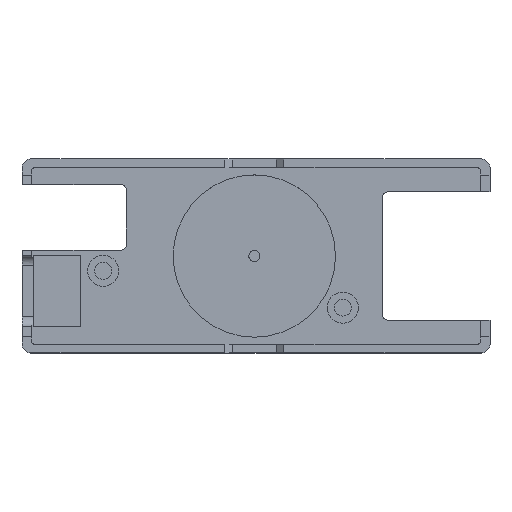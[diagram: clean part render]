
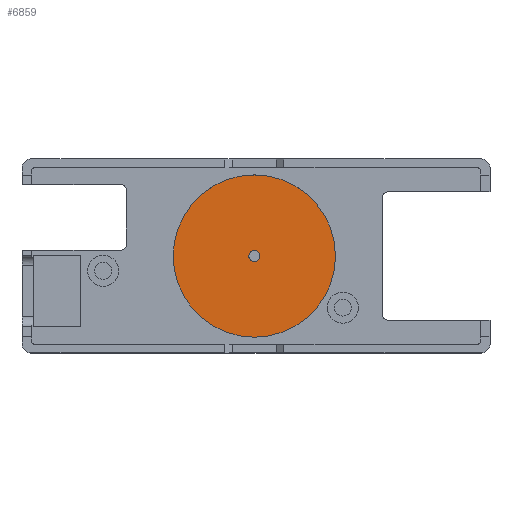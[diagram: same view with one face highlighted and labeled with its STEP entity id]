
A CAD part, top view. The second image highlights one B-rep face of the part: STEP entity #6859.
In plain terms, the highlighted planar face has unit normal (0, 0, 1).
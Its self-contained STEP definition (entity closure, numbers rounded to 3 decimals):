
#4363 = CYLINDRICAL_SURFACE('',#4364,11.);
#4364 = AXIS2_PLACEMENT_3D('',#4365,#4366,#4367);
#4365 = CARTESIAN_POINT('',(31.5,13.15,1.61));
#4366 = DIRECTION('',(0.,0.,1.));
#4367 = DIRECTION('',(1.,0.,0.));
#6320 = VERTEX_POINT('',#6321);
#6321 = CARTESIAN_POINT('',(42.5,13.15,0.4));
#6342 = EDGE_CURVE('',#6320,#6320,#6343,.T.);
#6343 = SURFACE_CURVE('',#6344,(#6349,#6356),.PCURVE_S1.);
#6344 = CIRCLE('',#6345,11.);
#6345 = AXIS2_PLACEMENT_3D('',#6346,#6347,#6348);
#6346 = CARTESIAN_POINT('',(31.5,13.15,0.4));
#6347 = DIRECTION('',(-0.,0.,1.));
#6348 = DIRECTION('',(1.,0.,0.));
#6349 = PCURVE('',#4363,#6350);
#6350 = DEFINITIONAL_REPRESENTATION('',(#6351),#6355);
#6351 = LINE('',#6352,#6353);
#6352 = CARTESIAN_POINT('',(0.,-1.21));
#6353 = VECTOR('',#6354,1.);
#6354 = DIRECTION('',(1.,0.));
#6355 = ( GEOMETRIC_REPRESENTATION_CONTEXT(2) 
PARAMETRIC_REPRESENTATION_CONTEXT() REPRESENTATION_CONTEXT('2D SPACE',''
  ) );
#6356 = PCURVE('',#6357,#6362);
#6357 = PLANE('',#6358);
#6358 = AXIS2_PLACEMENT_3D('',#6359,#6360,#6361);
#6359 = CARTESIAN_POINT('',(31.5,13.15,0.4));
#6360 = DIRECTION('',(0.,0.,-1.));
#6361 = DIRECTION('',(-1.,-0.,-0.));
#6362 = DEFINITIONAL_REPRESENTATION('',(#6363),#6371);
#6363 = ( BOUNDED_CURVE() B_SPLINE_CURVE(2,(#6364,#6365,#6366,#6367,
#6368,#6369,#6370),.UNSPECIFIED.,.T.,.F.) B_SPLINE_CURVE_WITH_KNOTS((1,2
    ,2,2,2,1),(-2.094,0.,2.094,4.189,
6.283,8.378),.UNSPECIFIED.) CURVE() 
GEOMETRIC_REPRESENTATION_ITEM() RATIONAL_B_SPLINE_CURVE((1.,0.5,1.,0.5,
1.,0.5,1.)) REPRESENTATION_ITEM('') );
#6364 = CARTESIAN_POINT('',(-11.,0.));
#6365 = CARTESIAN_POINT('',(-11.,19.053));
#6366 = CARTESIAN_POINT('',(5.5,9.526));
#6367 = CARTESIAN_POINT('',(22.,0.));
#6368 = CARTESIAN_POINT('',(5.5,-9.526));
#6369 = CARTESIAN_POINT('',(-11.,-19.053));
#6370 = CARTESIAN_POINT('',(-11.,0.));
#6371 = ( GEOMETRIC_REPRESENTATION_CONTEXT(2) 
PARAMETRIC_REPRESENTATION_CONTEXT() REPRESENTATION_CONTEXT('2D SPACE',''
  ) );
#6859 = ADVANCED_FACE('',(#6860,#6863),#6357,.F.);
#6860 = FACE_BOUND('',#6861,.T.);
#6861 = EDGE_LOOP('',(#6862));
#6862 = ORIENTED_EDGE('',*,*,#6342,.T.);
#6863 = FACE_BOUND('',#6864,.T.);
#6864 = EDGE_LOOP('',(#6865));
#6865 = ORIENTED_EDGE('',*,*,#6866,.T.);
#6866 = EDGE_CURVE('',#6867,#6867,#6869,.T.);
#6867 = VERTEX_POINT('',#6868);
#6868 = CARTESIAN_POINT('',(32.25,13.15,0.4));
#6869 = SURFACE_CURVE('',#6870,(#6875,#6882),.PCURVE_S1.);
#6870 = CIRCLE('',#6871,0.75);
#6871 = AXIS2_PLACEMENT_3D('',#6872,#6873,#6874);
#6872 = CARTESIAN_POINT('',(31.5,13.15,0.4));
#6873 = DIRECTION('',(0.,0.,-1.));
#6874 = DIRECTION('',(1.,0.,0.));
#6875 = PCURVE('',#6357,#6876);
#6876 = DEFINITIONAL_REPRESENTATION('',(#6877),#6881);
#6877 = CIRCLE('',#6878,0.75);
#6878 = AXIS2_PLACEMENT_2D('',#6879,#6880);
#6879 = CARTESIAN_POINT('',(0.,0.));
#6880 = DIRECTION('',(-1.,0.));
#6881 = ( GEOMETRIC_REPRESENTATION_CONTEXT(2) 
PARAMETRIC_REPRESENTATION_CONTEXT() REPRESENTATION_CONTEXT('2D SPACE',''
  ) );
#6882 = PCURVE('',#6883,#6888);
#6883 = CYLINDRICAL_SURFACE('',#6884,0.75);
#6884 = AXIS2_PLACEMENT_3D('',#6885,#6886,#6887);
#6885 = CARTESIAN_POINT('',(31.5,13.15,1.9));
#6886 = DIRECTION('',(0.,0.,1.));
#6887 = DIRECTION('',(1.,0.,0.));
#6888 = DEFINITIONAL_REPRESENTATION('',(#6889),#6893);
#6889 = LINE('',#6890,#6891);
#6890 = CARTESIAN_POINT('',(6.283,-1.5));
#6891 = VECTOR('',#6892,1.);
#6892 = DIRECTION('',(-1.,0.));
#6893 = ( GEOMETRIC_REPRESENTATION_CONTEXT(2) 
PARAMETRIC_REPRESENTATION_CONTEXT() REPRESENTATION_CONTEXT('2D SPACE',''
  ) );
